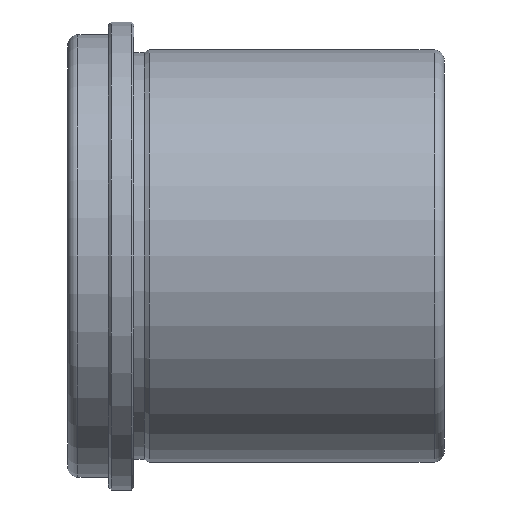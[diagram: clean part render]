
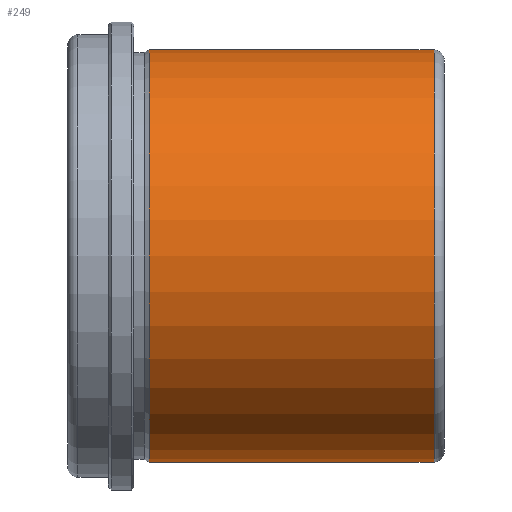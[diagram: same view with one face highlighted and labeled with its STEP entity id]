
A CAD part, front view. The second image highlights one B-rep face of the part: STEP entity #249.
In plain terms, the highlighted cylindrical face has radius 40.5 mm (diameter 81 mm), a full revolution.
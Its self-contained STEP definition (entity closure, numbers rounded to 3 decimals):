
#26=LINE('',#442,#34);
#34=VECTOR('',#362,40.5);
#42=CYLINDRICAL_SURFACE('',#298,40.5);
#52=FACE_OUTER_BOUND('',#70,.T.);
#70=EDGE_LOOP('',(#183,#184,#185,#186,#187));
#93=CIRCLE('',#296,40.5);
#94=CIRCLE('',#297,40.5);
#95=CIRCLE('',#299,40.5);
#114=VERTEX_POINT('',#435);
#115=VERTEX_POINT('',#437);
#116=VERTEX_POINT('',#441);
#138=EDGE_CURVE('',#114,#115,#93,.T.);
#139=EDGE_CURVE('',#115,#114,#94,.T.);
#140=EDGE_CURVE('',#115,#116,#26,.T.);
#141=EDGE_CURVE('',#116,#116,#95,.T.);
#183=ORIENTED_EDGE('',*,*,#139,.F.);
#184=ORIENTED_EDGE('',*,*,#140,.T.);
#185=ORIENTED_EDGE('',*,*,#141,.T.);
#186=ORIENTED_EDGE('',*,*,#140,.F.);
#187=ORIENTED_EDGE('',*,*,#138,.F.);
#249=ADVANCED_FACE('',(#52),#42,.T.);
#296=AXIS2_PLACEMENT_3D('',#438,#356,#357);
#297=AXIS2_PLACEMENT_3D('',#439,#358,#359);
#298=AXIS2_PLACEMENT_3D('',#440,#360,#361);
#299=AXIS2_PLACEMENT_3D('',#443,#363,#364);
#356=DIRECTION('center_axis',(1.,0.,0.));
#357=DIRECTION('ref_axis',(0.,-1.,0.));
#358=DIRECTION('center_axis',(1.,0.,0.));
#359=DIRECTION('ref_axis',(0.,-1.,0.));
#360=DIRECTION('center_axis',(1.,0.,0.));
#361=DIRECTION('ref_axis',(0.,1.,0.));
#362=DIRECTION('',(-1.,0.,0.));
#363=DIRECTION('center_axis',(1.,0.,0.));
#364=DIRECTION('ref_axis',(0.,0.,-1.));
#435=CARTESIAN_POINT('',(72.,0.,40.5));
#437=CARTESIAN_POINT('',(72.,-40.5,0.));
#438=CARTESIAN_POINT('Origin',(72.,0.,0.));
#439=CARTESIAN_POINT('Origin',(72.,0.,0.));
#440=CARTESIAN_POINT('Origin',(45.,0.,0.));
#441=CARTESIAN_POINT('',(16.,-40.5,0.));
#442=CARTESIAN_POINT('',(45.,-40.5,0.));
#443=CARTESIAN_POINT('Origin',(16.,0.,0.));
